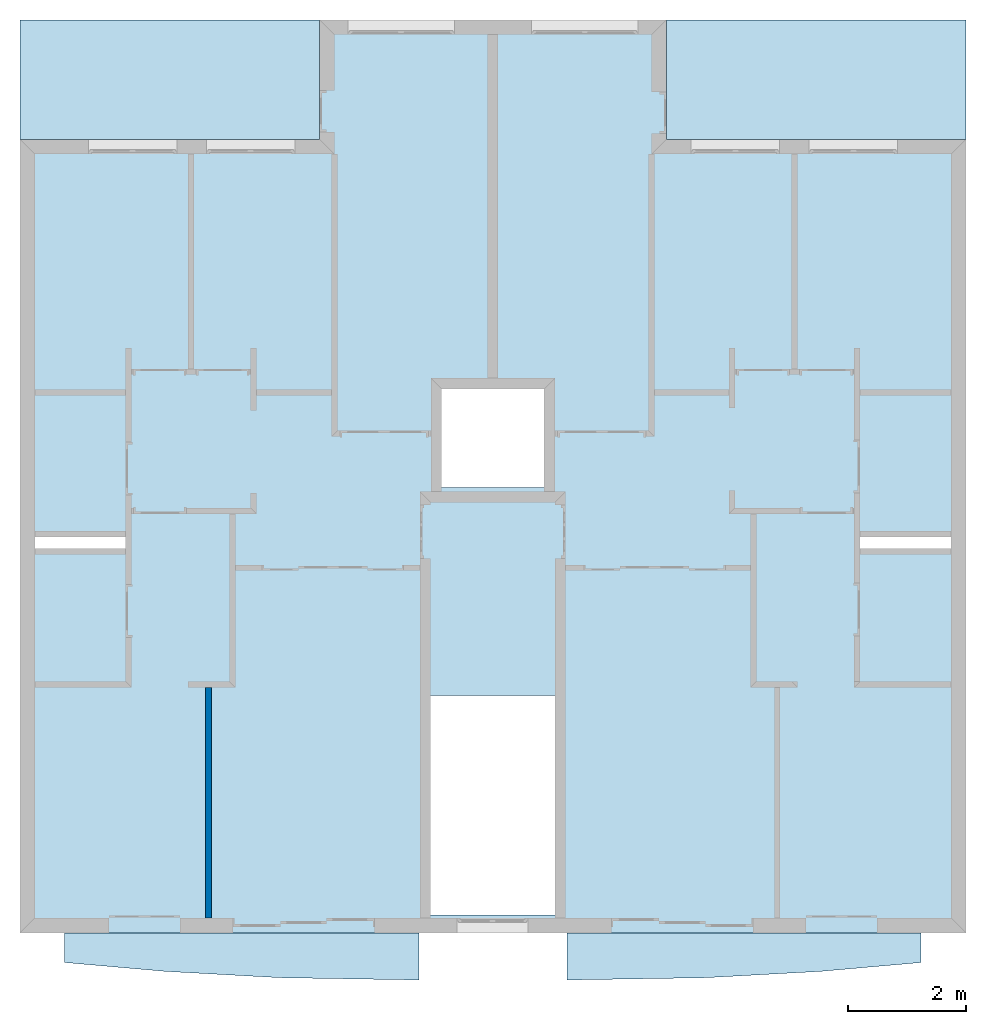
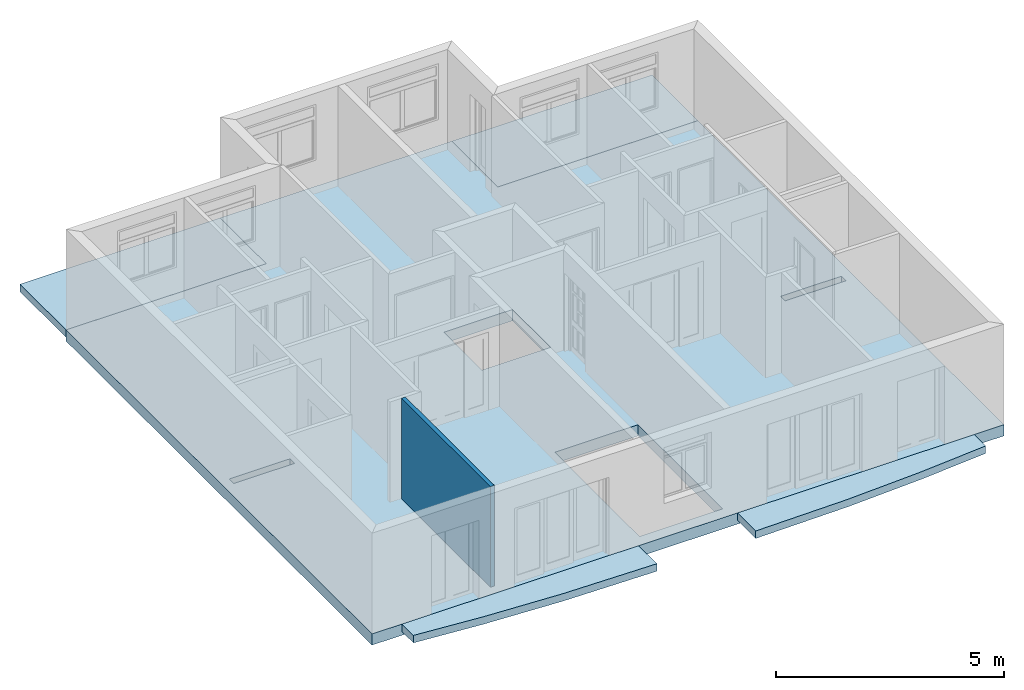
# One storey, part 1 of 12: 5 slabs, 1 wall, 4 openings.
"""IFC2X3 building model written with IfcOpenShell, lengths in metres."""

from ifc_helpers import new_model, entity, si_unit, converted_unit, direction, frame, origin_with_axes, place, context, project, spatial, polyline, outline, extrude, material, layer, layer_set, layer_usage, type_object, element, save


model = new_model("IFC2X3")

# Units and contexts
context_of_model = context(None, 3, precision=1e-05, world=origin_with_axes(), true_north=direction((6.123234e-17, 1.0)))
plan_context = context("Plan", 3, precision=1e-05, world=origin_with_axes(), true_north=direction((6.123234e-17, 1.0)))
model_context = context("Model", 3, precision=1e-05, world=origin_with_axes(), true_north=direction((6.123234e-17, 1.0)))
ifc_project = project(units=[si_unit("LENGTHUNIT", "METRE"), si_unit("AREAUNIT", "SQUARE_METRE"), si_unit("VOLUMEUNIT", "CUBIC_METRE"), converted_unit("PLANEANGLEUNIT", "DEGREE", entity("IfcPlaneAngleMeasure", 0.017453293), si_unit("PLANEANGLEUNIT", "RADIAN"), dimensions=[0, 0, 0, 0, 0, 0, 0]), si_unit("SOLIDANGLEUNIT", "STERADIAN"), si_unit("MASSUNIT", "GRAM"), si_unit("TIMEUNIT", "SECOND"), si_unit("THERMODYNAMICTEMPERATUREUNIT", "DEGREE_CELSIUS"), si_unit("LUMINOUSINTENSITYUNIT", "LUMEN")], contexts=[context_of_model, plan_context, model_context])

# Site, building, storey
site_placement = place(None, origin_with_axes())
site = spatial("IfcSite", under=ifc_project, at=site_placement, Name="Por defecto Sitio", CompositionType="ELEMENT")
building_placement = place(site_placement, origin_with_axes())
building = spatial("IfcBuilding", under=site, at=building_placement, Name="Por defecto Edificio", CompositionType="ELEMENT")
storey_placement = place(building_placement, frame((0.0, 0.0, 10.2), z_axis=(0.0, 0.0, 1.0), x_axis=(1.0, 0.0, 0.0)))
storey = spatial("IfcBuildingStorey", under=building, at=storey_placement, Name="Tercera", CompositionType="ELEMENT", Elevation=10.2)

# Slab
ifc_material_1 = material(Name="Sólido + Punto&Línea")
ifc_layer_1 = layer(ifc_material_1, 0.2, ventilated="UNKNOWN")
ifc_layer_set_1 = layer_set([ifc_layer_1], Name="Sólido + Punto&Línea")
ifc_layer_usage_1 = layer_usage(ifc_layer_set_1, "AXIS3", "NEGATIVE", 0.2)
slab_1_placement = place(storey_placement, frame((16.03417, 15.472599, -0.2), z_axis=(0.0, 0.0, 1.0), x_axis=(-1.0, 0.0, 0.0)))
element("IfcSlab", 1, at=slab_1_placement, inside=storey, material=ifc_layer_usage_1, Name="Forj-004", PredefinedType="FLOOR", context=context_of_model, shape_type="SweptSolid", body=[
    extrude(outline(polyline([(0.0, 0.0), (5.0781164, 0.0), (5.0781164, 2.0234265), (0.0, 2.0234265), (0.0, 0.0)])), origin_with_axes(), (0.0, 0.0, 1.0), 0.2),
])

# Slab, openings
ifc_material_2 = material(Name="Hormigón armado")
ifc_layer_2 = layer(ifc_material_2, 0.3, ventilated="UNKNOWN")
ifc_layer_set_2 = layer_set([ifc_layer_2], Name="Hormigón armado")
ifc_layer_usage_2 = layer_usage(ifc_layer_set_2, "AXIS3", "NEGATIVE", 0.3)
slab_2_placement = place(storey_placement, frame((0.0, 0.0, -0.3), z_axis=(0.0, 0.0, 1.0), x_axis=(1.0, 0.0, 0.0)))
slab_2 = element("IfcSlab", 2, at=slab_2_placement, inside=storey, material=ifc_layer_usage_2, Name="Forj-003", PredefinedType="FLOOR", context=context_of_model, shape_type="SweptSolid", body=[
    extrude(outline(polyline([(0.0, 0.0), (16.03417, 0.0), (16.03417, 13.449173), (10.956053, 13.449173), (10.956053, 15.472599), (5.0781164, 15.472599), (5.0781164, 13.449173), (0.0, 13.449173), (0.0, 0.0)])), origin_with_axes(), (0.0, 0.0, 1.0), 0.3),
])
opening_1_placement = place(slab_2_placement, origin_with_axes())
element("IfcOpeningElement", 3, at=opening_1_placement, cuts=slab_2, context=model_context, shape_type="SweptSolid", body=[
    extrude(outline(polyline([(7.145, 9.2207615), (8.885, 9.2207615), (8.885, 7.5476562), (7.145, 7.5476562), (7.145, 9.2207615)])), origin_with_axes(), (0.0, 0.0, 1.0), 0.3),
])
opening_2_placement = place(slab_2_placement, origin_with_axes())
element("IfcOpeningElement", 4, at=opening_2_placement, cuts=slab_2, context=model_context, shape_type="SweptSolid", body=[
    extrude(outline(polyline([(9.0691698, 4.02), (9.0691698, 0.3), (6.9566603, 0.3), (6.9566603, 4.02), (9.0691698, 4.02)])), origin_with_axes(), (0.0, 0.0, 1.0), 0.3),
])
opening_3_placement = place(slab_2_placement, origin_with_axes())
element("IfcOpeningElement", 5, at=opening_3_placement, cuts=slab_2, context=model_context, shape_type="SweptSolid", body=[
    extrude(outline(polyline([(0.25, 6.7112172), (1.7901652, 6.7112172), (1.7901652, 6.5112172), (0.25, 6.5112172), (0.25, 6.7112172)])), origin_with_axes(), (0.0, 0.0, 1.0), 0.3),
])
opening_4_placement = place(slab_2_placement, origin_with_axes())
element("IfcOpeningElement", 6, at=opening_4_placement, cuts=slab_2, context=model_context, shape_type="SweptSolid", body=[
    extrude(outline(polyline([(14.239835, 6.7112172), (15.78417, 6.7112172), (15.78417, 6.5112172), (14.239835, 6.5112172), (14.239835, 6.7112172)])), origin_with_axes(), (0.0, 0.0, 1.0), 0.3),
])

# Slabs
ifc_layer_usage_3 = layer_usage(ifc_layer_set_1, "AXIS3", "NEGATIVE", 0.2)
slab_3_placement = place(storey_placement, frame((6.7629151, -2.5295321e-12, -0.2), z_axis=(0.0, 0.0, 1.0), x_axis=(-6.8145947e-13, -1.0, 0.0)))
element("IfcSlab", 7, at=slab_3_placement, inside=storey, material=ifc_layer_usage_3, Name="Forj-003", PredefinedType="FLOOR", context=context_of_model, shape_type="SweptSolid", body=[
    extrude(outline(polyline([(0.0, 0.0), (0.8002553, 0.0), (0.76145598, -2.3611599), (0.65450813, -4.3000185), (0.50418985, -6.005), (1.6763188e-12, -6.005), (0.0, 0.0)])), origin_with_axes(), (0.0, 0.0, 1.0), 0.2),
])
ifc_layer_usage_4 = layer_usage(ifc_layer_set_1, "AXIS3", "NEGATIVE", 0.2)
slab_4_placement = place(storey_placement, frame((9.2712548, -2.5295321e-12, -0.2), z_axis=(0.0, 0.0, 1.0), x_axis=(6.8145947e-13, -1.0, 0.0)))
element("IfcSlab", 8, at=slab_4_placement, inside=storey, material=ifc_layer_usage_4, Name="Forj-003", PredefinedType="FLOOR", context=context_of_model, shape_type="SweptSolid", body=[
    extrude(outline(polyline([(0.0, 0.0), (0.8002553, 0.0), (0.76145598, 2.3611599), (0.65450813, 4.3000185), (0.50418985, 6.005), (1.6763188e-12, 6.005), (0.0, 0.0)])), origin_with_axes(), (0.0, 0.0, 1.0), 0.2),
])
ifc_layer_usage_5 = layer_usage(ifc_layer_set_1, "AXIS3", "NEGATIVE", 0.2)
slab_5_placement = place(storey_placement, frame((-0.00047689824, 15.472599, -0.2), z_axis=(0.0, 0.0, 1.0), x_axis=(1.0, 0.0, 0.0)))
element("IfcSlab", 9, at=slab_5_placement, inside=storey, material=ifc_layer_usage_5, Name="Forj-003", PredefinedType="FLOOR", context=context_of_model, shape_type="SweptSolid", body=[
    extrude(outline(polyline([(0.0, 0.0), (5.0785933, 0.0), (5.0785933, -2.0234265), (0.0, -2.0234265), (0.0, 0.0)])), origin_with_axes(), (0.0, 0.0, 1.0), 0.2),
])

# Wall
ifc_material_3 = material(Name="Ladrillo común")
ifc_layer_3 = layer(ifc_material_3, 0.1, ventilated="UNKNOWN")
ifc_layer_set_3 = layer_set([ifc_layer_3], Name="Ladrillo común")
ifc_layer_usage_6 = layer_usage(ifc_layer_set_3, "AXIS2", "POSITIVE", 0.0)
wall_type = type_object("IfcWallType", Name="Ladrillo común", PredefinedType="NOTDEFINED")
wall_placement = place(storey_placement, frame((3.245141, -1.1368684e-13, 0.0), z_axis=(0.0, 0.0, 1.0), x_axis=(0.0, 1.0, 0.0)))
element("IfcWallStandardCase", 10, at=wall_placement, inside=storey, type_object=wall_type, material=ifc_layer_usage_6, Name="Muro-019", context=context_of_model, shape_type="SweptSolid", body=[
    extrude(outline(polyline([(0.25, 0.0), (4.1588613, 0.0), (4.1588613, 0.1), (0.25, 0.1), (0.25, 0.0)])), origin_with_axes(), (0.0, 0.0, 1.0), 2.7),
])

save(model, "model.ifc")
